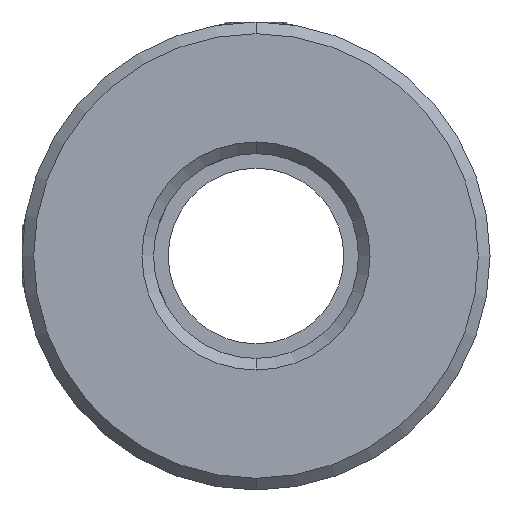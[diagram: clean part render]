
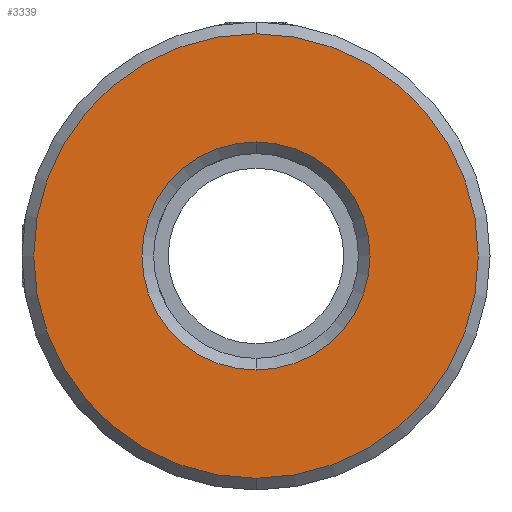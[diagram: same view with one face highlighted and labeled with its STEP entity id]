
A CAD part, front view. The second image highlights one B-rep face of the part: STEP entity #3339.
In plain terms, the highlighted planar face has unit normal (0, -1, 0).
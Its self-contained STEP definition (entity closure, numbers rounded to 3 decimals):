
#72 = EDGE_LOOP ( 'NONE', ( #1480, #3302 ) ) ;
#85 = AXIS2_PLACEMENT_3D ( 'NONE', #3763, #1774, #869 ) ;
#187 = ORIENTED_EDGE ( 'NONE', *, *, #923, .T. ) ;
#249 = CARTESIAN_POINT ( 'NONE',  ( -10.188, -0.277, 0.046 ) ) ;
#280 = DIRECTION ( 'NONE',  ( 0., 0., 1. ) ) ;
#285 = FACE_OUTER_BOUND ( 'NONE', #72, .T. ) ;
#291 = DIRECTION ( 'NONE',  ( 0., -1., 0. ) ) ;
#344 = VERTEX_POINT ( 'NONE', #2820 ) ;
#483 = CARTESIAN_POINT ( 'NONE',  ( -10.188, -0.277, -15.154 ) ) ;
#544 = VERTEX_POINT ( 'NONE', #3219 ) ;
#860 = DIRECTION ( 'NONE',  ( 0., -1., 0. ) ) ;
#869 = DIRECTION ( 'NONE',  ( 0., 0., 1. ) ) ;
#907 = EDGE_CURVE ( 'NONE', #3623, #2500, #3691, .T. ) ;
#923 = EDGE_CURVE ( 'NONE', #544, #344, #1530, .T. ) ;
#982 = AXIS2_PLACEMENT_3D ( 'NONE', #1753, #860, #280 ) ;
#1130 = DIRECTION ( 'NONE',  ( 0., 1., 0. ) ) ;
#1468 = DIRECTION ( 'NONE',  ( 0., 0., 1. ) ) ;
#1473 = DIRECTION ( 'NONE',  ( 0., 1., 0. ) ) ;
#1480 = ORIENTED_EDGE ( 'NONE', *, *, #907, .T. ) ;
#1483 = CARTESIAN_POINT ( 'NONE',  ( -10.188, -0.277, 0.046 ) ) ;
#1530 = CIRCLE ( 'NONE', #3318, 7.8 ) ;
#1570 = AXIS2_PLACEMENT_3D ( 'NONE', #1483, #291, #1468 ) ;
#1753 = CARTESIAN_POINT ( 'NONE',  ( -10.188, -0.277, 0.046 ) ) ;
#1774 = DIRECTION ( 'NONE',  ( 0., 1., 0. ) ) ;
#1806 = AXIS2_PLACEMENT_3D ( 'NONE', #3708, #1130, #3392 ) ;
#1966 = ORIENTED_EDGE ( 'NONE', *, *, #3291, .T. ) ;
#2065 = DIRECTION ( 'NONE',  ( 0., 0., 1. ) ) ;
#2310 = FACE_BOUND ( 'NONE', #3411, .T. ) ;
#2500 = VERTEX_POINT ( 'NONE', #483 ) ;
#2574 = EDGE_CURVE ( 'NONE', #2500, #3623, #3294, .T. ) ;
#2820 = CARTESIAN_POINT ( 'NONE',  ( -10.188, -0.277, 7.846 ) ) ;
#2865 = PLANE ( 'NONE',  #85 ) ;
#2873 = CIRCLE ( 'NONE', #1806, 7.8 ) ;
#3219 = CARTESIAN_POINT ( 'NONE',  ( -10.188, -0.277, -7.754 ) ) ;
#3282 = CARTESIAN_POINT ( 'NONE',  ( -10.188, -0.277, 15.246 ) ) ;
#3291 = EDGE_CURVE ( 'NONE', #344, #544, #2873, .T. ) ;
#3294 = CIRCLE ( 'NONE', #1570, 15.2 ) ;
#3302 = ORIENTED_EDGE ( 'NONE', *, *, #2574, .T. ) ;
#3318 = AXIS2_PLACEMENT_3D ( 'NONE', #249, #1473, #2065 ) ;
#3339 = ADVANCED_FACE ( 'NONE', ( #285, #2310 ), #2865, .F. ) ;
#3392 = DIRECTION ( 'NONE',  ( 0., 0., 1. ) ) ;
#3411 = EDGE_LOOP ( 'NONE', ( #187, #1966 ) ) ;
#3623 = VERTEX_POINT ( 'NONE', #3282 ) ;
#3691 = CIRCLE ( 'NONE', #982, 15.2 ) ;
#3708 = CARTESIAN_POINT ( 'NONE',  ( -10.188, -0.277, 0.046 ) ) ;
#3763 = CARTESIAN_POINT ( 'NONE',  ( -10.188, -0.277, 0.046 ) ) ;
